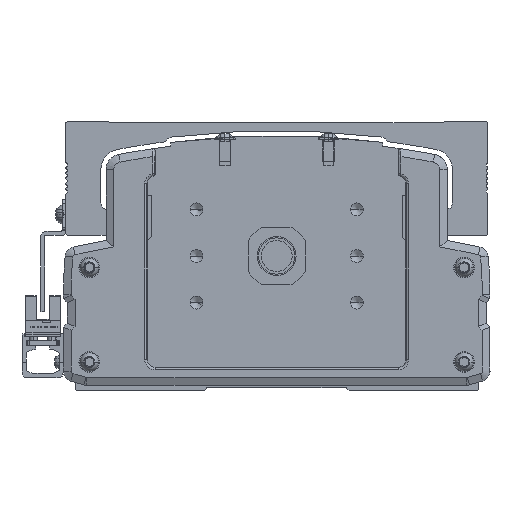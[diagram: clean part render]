
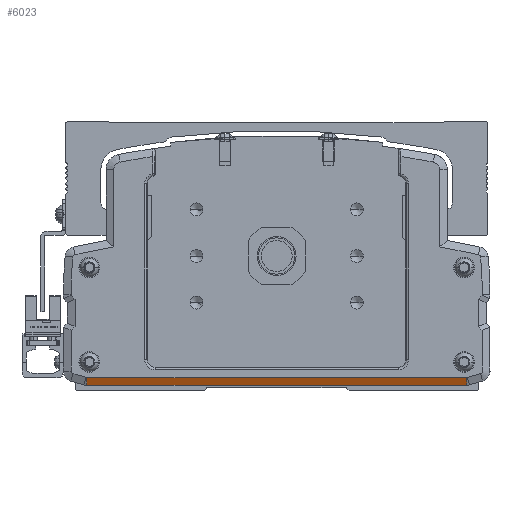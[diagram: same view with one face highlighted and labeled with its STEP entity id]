
A CAD part, front view. The second image highlights one B-rep face of the part: STEP entity #6023.
In plain terms, the highlighted planar face has unit normal (0, -0.894, -0.447).
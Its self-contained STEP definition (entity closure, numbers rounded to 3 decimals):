
#6023=ADVANCED_FACE('',(#12983),#12984,.F.);
#12983=FACE_OUTER_BOUND('',#21915,.T.);
#12984=PLANE('',#21916);
#21915=EDGE_LOOP('',(#40957,#40958,#40959,#40960));
#21916=AXIS2_PLACEMENT_3D('',#40961,#40962,#40963);
#40957=ORIENTED_EDGE('',*,*,#56575,.T.);
#40958=ORIENTED_EDGE('',*,*,#56928,.F.);
#40959=ORIENTED_EDGE('',*,*,#56929,.F.);
#40960=ORIENTED_EDGE('',*,*,#55423,.F.);
#40961=CARTESIAN_POINT('',(-599.999,-236.278,-50.001));
#40962=DIRECTION('',(0.,0.894,0.447));
#40963=DIRECTION('',(0.,0.447,-0.894));
#55423=EDGE_CURVE('',#68343,#68345,#68346,.T.);
#56575=EDGE_CURVE('',#68343,#69008,#69834,.T.);
#56928=EDGE_CURVE('',#65579,#69008,#70282,.T.);
#56929=EDGE_CURVE('',#68345,#65579,#70283,.T.);
#65579=VERTEX_POINT('',#82388);
#68343=VERTEX_POINT('',#86657);
#68345=VERTEX_POINT('',#86659);
#68346=LINE('',#86660,#86661);
#69008=VERTEX_POINT('',#87670);
#69834=LINE('',#89066,#89067);
#70282=LINE('',#89757,#89758);
#70283=LINE('',#89759,#89760);
#82388=CARTESIAN_POINT('',(-526.575,-236.278,-50.001));
#86657=CARTESIAN_POINT('',(-673.423,-237.778,-47.001));
#86659=CARTESIAN_POINT('',(-526.575,-237.778,-47.001));
#86660=CARTESIAN_POINT('',(-600.015,-237.778,-47.001));
#86661=VECTOR('',#100002,1000.0);
#87670=CARTESIAN_POINT('',(-673.423,-236.278,-50.001));
#89066=CARTESIAN_POINT('',(-673.423,-237.778,-47.001));
#89067=VECTOR('',#101125,1000.0);
#89757=CARTESIAN_POINT('',(-599.999,-236.278,-50.001));
#89758=VECTOR('',#101475,1000.0);
#89759=CARTESIAN_POINT('',(-526.575,-237.778,-47.001));
#89760=VECTOR('',#101476,1000.0);
#100002=DIRECTION('',(1.0,0.,0.));
#101125=DIRECTION('',(0.,0.447,-0.894));
#101475=DIRECTION('',(-1.0,0.,0.));
#101476=DIRECTION('',(0.,0.447,-0.894));
